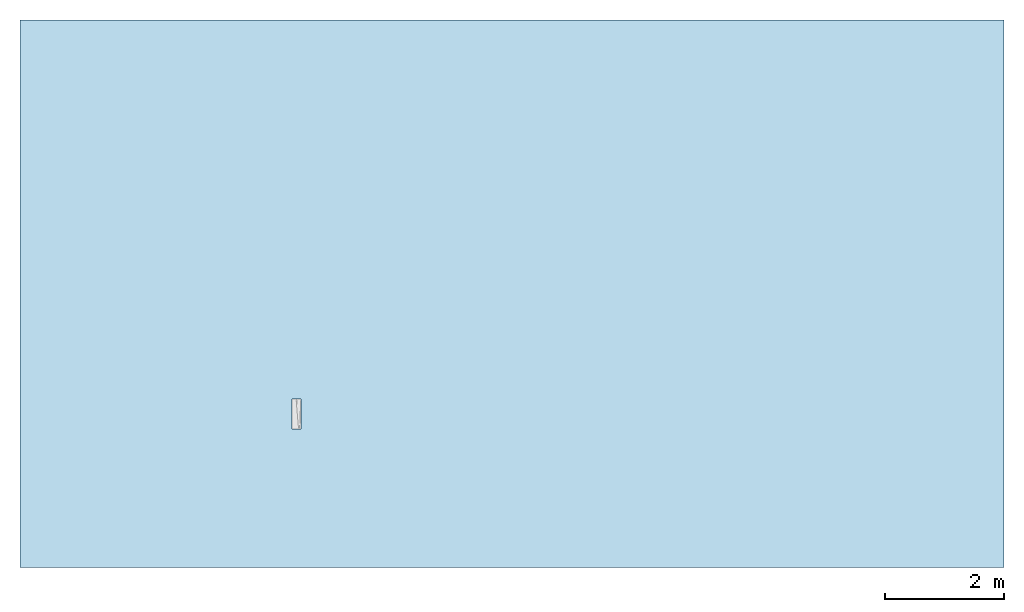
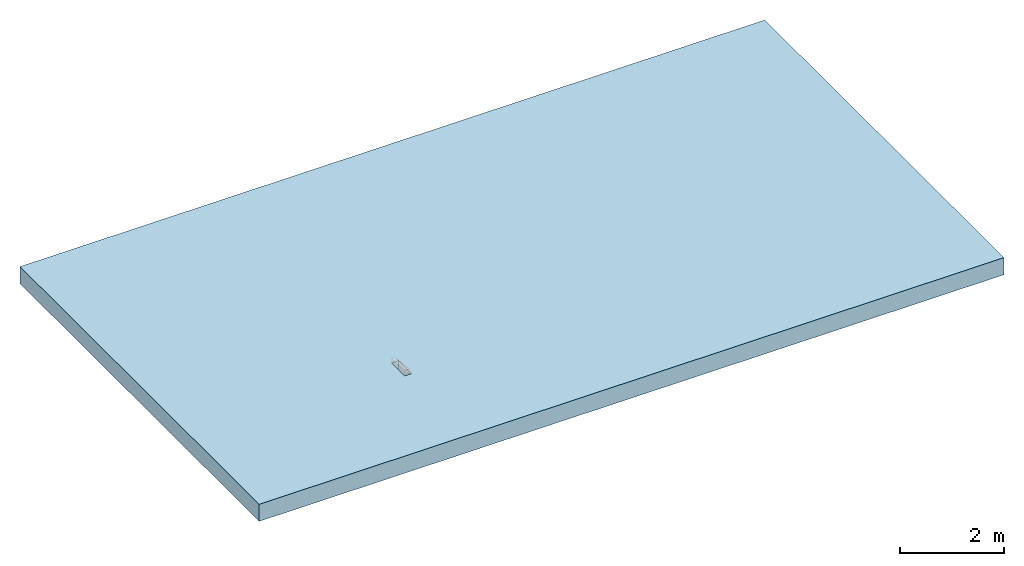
# One storey, part 1 of 2: 1 slab, 3 openings.
"""IFC2X3 building model written with IfcOpenShell, lengths in millimetres."""

from ifc_helpers import new_model, entity, si_unit, converted_unit, direction, frame, frame_2d, origin, origin_2d_with_axis, place, context, subcontext, project, spatial, rectangle, circle, extrude, material, layer, layer_set, layer_usage, element, save


model = new_model("IFC2X3")

# Units and contexts
model_context = context("Model", 3, precision=1e-06, world=origin(), true_north=direction((2.0, 6.12303176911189e-17, 1.0)))
context_of_model = context(None, 3, precision=1e-06, world=origin(), true_north=direction((2.0, 6.12303176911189e-17, 1.0)))
body_context = subcontext(model_context, "Body", "Model", "MODEL_VIEW")
ifc_project = project(units=[si_unit("LENGTHUNIT", "METRE", prefix="MILLI"), si_unit("AREAUNIT", "SQUARE_METRE", prefix="MILLI"), si_unit("VOLUMEUNIT", "CUBIC_METRE", prefix="MILLI"), converted_unit("PLANEANGLEUNIT", "DEGREE", entity("IfcRatioMeasure", 0.0174532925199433), si_unit("PLANEANGLEUNIT", "RADIAN"), dimensions=[0, 0, 0, 0, 0, 0, 0]), si_unit("TIMEUNIT", "SECOND")], contexts=[model_context, context_of_model])

# Site, building, storey
site_placement = place(None, origin())
site = spatial("IfcSite", under=ifc_project, at=site_placement, Name="Default", CompositionType="ELEMENT")
building_placement = place(site_placement, origin())
building = spatial("IfcBuilding", under=site, at=building_placement, CompositionType="ELEMENT")
storey_placement = place(building_placement, origin())
storey = spatial("IfcBuildingStorey", under=building, at=storey_placement, Name="Level 1", CompositionType="ELEMENT", Elevation=0.0)

# Slab, openings
ifc_material = material(Name="Plant")
ifc_layer = layer(ifc_material, 400.0)
ifc_layer_set = layer_set([ifc_layer], Name="Floor:Generic Floor - 400mm")
ifc_layer_usage = layer_usage(ifc_layer_set, "AXIS3", "POSITIVE", 0.0)
slab_placement = place(storey_placement, frame((-17967.0691536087, -3738.31688706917, -400.0)))
slab = element("IfcSlab", 1, at=slab_placement, inside=storey, material=ifc_layer_usage, Name="Floor:Generic Floor - 400mm", ObjectType="Floor:Generic Floor - 400mm", PredefinedType="FLOOR", context=body_context, shape_type="SweptSolid", body=[
    extrude(rectangle(XDim=9180.0, YDim=16500.0, at=frame_2d((0.0, 0.0), x_axis=(0.0, -1.0))), frame((8250.0, 4590.0, 400.0), z_axis=(0.0, 0.0, -1.0), x_axis=(-1.0, 0.0, 0.0)), (0.0, 0.0, 1.0), 400.0),
])
opening_1_placement = place(slab_placement, origin())
element("IfcOpeningElement", 2, at=opening_1_placement, cuts=slab, ObjectType="Recess", context=body_context, shape_type="SweptSolid", body=[
    extrude(circle(Radius=55.0, at=origin_2d_with_axis()), frame((4636.37956964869, 2375.59509511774, -1475.0), z_axis=(0.0, 1.0, 0.0), x_axis=(1.0, 0.0, 0.0)), (0.0, 0.0, 1.0), 50.0),
])
opening_2_placement = place(slab_placement, origin())
element("IfcOpeningElement", 3, at=opening_2_placement, cuts=slab, ObjectType="Recess", context=body_context, shape_type="SweptSolid", body=[
    extrude(rectangle(XDim=280.350941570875, YDim=19.9999999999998, at=origin_2d_with_axis()), frame((4571.79407136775, 2575.77056590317, -1754.0), z_axis=(0.0, 0.0, 1.0), x_axis=(0.0, 1.0, 0.0)), (0.0, 0.0, 1.0), 279.000000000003),
])
opening_3_placement = place(slab_placement, origin())
element("IfcOpeningElement", 4, at=opening_3_placement, cuts=slab, ObjectType="Recess", context=body_context, shape_type="SweptSolid", body=[
    extrude(rectangle(XDim=149.999999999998, YDim=500.0, at=origin_2d_with_axis()), frame((4636.79407136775, 2575.59509511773, 120.0), z_axis=(0.0, 0.0, 1.0), x_axis=(-1.0, 0.0, 0.0)), (0.0, 0.0, 1.0), 280.0),
])

save(model, "model.ifc")
